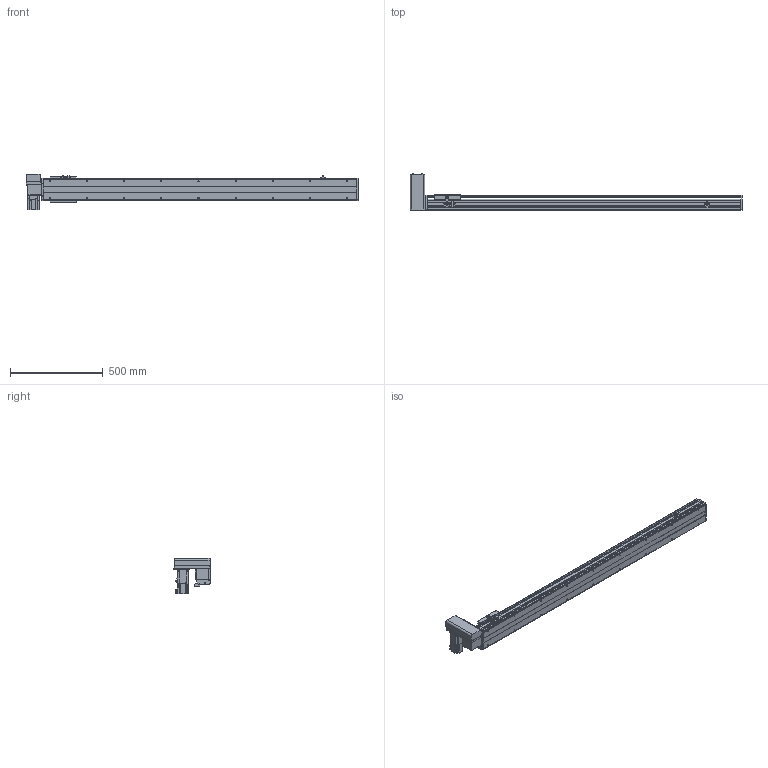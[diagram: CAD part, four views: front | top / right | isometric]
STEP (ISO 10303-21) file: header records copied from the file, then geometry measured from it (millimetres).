
FILE_DESCRIPTION( ( 'STEP AP214' ), '1' );
FILE_NAME( 'x:/temp/worker_27/temp/exporttempdir_6708_235_D6oTJ/format_0/PBS120-P40-S1400-RU-T40-C1-N(0).stp', '2022-06-06T00:50:01', ( 'License CC BY-ND 4.0' ), ( 'CADENAS' ), ' ', 'PARTsolutions', ' ' );
FILE_SCHEMA( ( 'AUTOMOTIVE_DESIGN { 1 0 10303 214 1 1 1 1 }' ) );
Length unit declared in the file: millimetre
Products named in the file (7): PBS120-P40-S1400-RU-T40-C1-N(0); _PBS120-S1400()_body; _PBS120T-RU_motors; _T40-p1; _PBS120_sliser; _PBS120_plant; _PBS120_sensor
Assembly tree (8 placements, depth 2):
  PBS120-P40-S1400-RU-T40-C1-N(0)
    _PBS120-S1400()_body
    _PBS120T-RU_motors
    _T40-p1
    _PBS120_sliser
    _PBS120_plant
    _PBS120_sensor  x3
Bounding box: 1786 x 198 x 189.7 mm (x, y, z)
Volume: 7263382.4 mm3; surface area: 1450920.6 mm2
Topology: 8 solids, 8 shells, 834 faces, 2166 edges, 1393 vertices
Faces by surface type: plane 551, cylinder 231, cone 50, torus 2
Full cylindrical faces by diameter (mm): 2.459 x6, 3.242 x4, 4 x2, 4.134 x4, 4.5 x10, 4.917 x22, 5.5 x11, 6 x2, 6.6 x1, 7 x2, 8.5 x4, 9 x4, 12 x1, 14 x1, 30 x2, 40 x1, 50 x2
Entity records: 27492 total; most frequent: DIRECTION 3764, CARTESIAN_POINT 3695, ORIENTED_EDGE 3514, EDGE_CURVE 1757, AXIS2_PLACEMENT_3D 1268, LINE 1228, VECTOR 1228, VERTEX_POINT 1199
